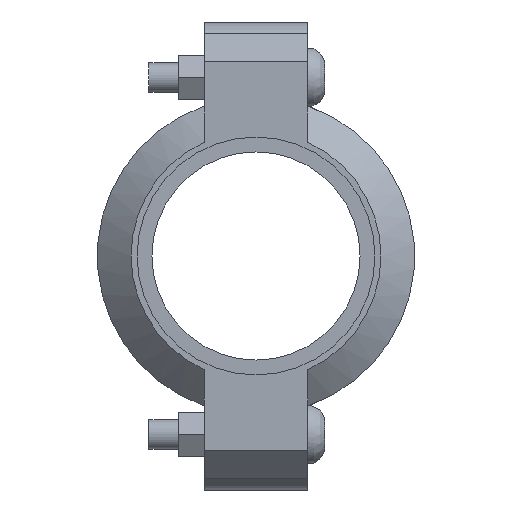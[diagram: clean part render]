
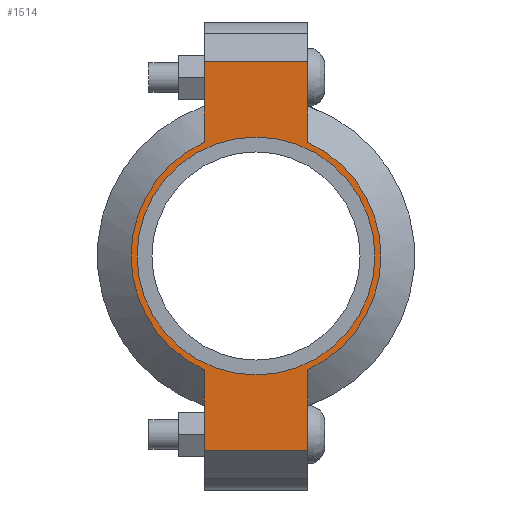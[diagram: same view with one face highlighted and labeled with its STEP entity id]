
A CAD part, left-side view. The second image highlights one B-rep face of the part: STEP entity #1514.
In plain terms, the highlighted planar face has unit normal (-1, 0, 0) as drawn and (0, 0, 1) by its records, which use the part's own axes.
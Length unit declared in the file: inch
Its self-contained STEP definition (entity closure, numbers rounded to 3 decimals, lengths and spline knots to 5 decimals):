
#176=LINE('',#2641,#269);
#189=LINE('',#2685,#282);
#194=LINE('',#2709,#287);
#201=LINE('',#2727,#294);
#208=LINE('',#2752,#301);
#209=LINE('',#2755,#302);
#269=VECTOR('',#2109,0.3937);
#282=VECTOR('',#2138,0.3937);
#287=VECTOR('',#2149,0.3937);
#294=VECTOR('',#2166,0.3937);
#301=VECTOR('',#2187,0.3937);
#302=VECTOR('',#2192,0.3937);
#350=FACE_BOUND('',#510,.T.);
#415=FACE_OUTER_BOUND('',#509,.T.);
#509=EDGE_LOOP('',(#1263,#1264,#1265,#1266,#1267,#1268,#1269,#1270));
#510=EDGE_LOOP('',(#1271));
#606=CIRCLE('',#1777,1.575);
#607=CIRCLE('',#1778,1.575);
#608=CIRCLE('',#1779,1.5);
#709=VERTEX_POINT('',#2636);
#710=VERTEX_POINT('',#2640);
#726=VERTEX_POINT('',#2682);
#727=VERTEX_POINT('',#2684);
#733=VERTEX_POINT('',#2704);
#734=VERTEX_POINT('',#2708);
#739=VERTEX_POINT('',#2724);
#740=VERTEX_POINT('',#2726);
#746=VERTEX_POINT('',#2757);
#876=EDGE_CURVE('',#710,#709,#176,.T.);
#896=EDGE_CURVE('',#727,#726,#189,.T.);
#905=EDGE_CURVE('',#734,#733,#194,.T.);
#914=EDGE_CURVE('',#740,#739,#201,.T.);
#926=EDGE_CURVE('',#734,#726,#208,.T.);
#927=EDGE_CURVE('',#733,#740,#606,.T.);
#928=EDGE_CURVE('',#710,#739,#209,.T.);
#929=EDGE_CURVE('',#709,#727,#607,.T.);
#930=EDGE_CURVE('',#746,#746,#608,.T.);
#1263=ORIENTED_EDGE('',*,*,#926,.F.);
#1264=ORIENTED_EDGE('',*,*,#905,.T.);
#1265=ORIENTED_EDGE('',*,*,#927,.T.);
#1266=ORIENTED_EDGE('',*,*,#914,.T.);
#1267=ORIENTED_EDGE('',*,*,#928,.F.);
#1268=ORIENTED_EDGE('',*,*,#876,.T.);
#1269=ORIENTED_EDGE('',*,*,#929,.T.);
#1270=ORIENTED_EDGE('',*,*,#896,.T.);
#1271=ORIENTED_EDGE('',*,*,#930,.T.);
#1367=PLANE('',#1776);
#1514=ADVANCED_FACE('',(#415,#350),#1367,.T.);
#1776=AXIS2_PLACEMENT_3D('',#2753,#2188,#2189);
#1777=AXIS2_PLACEMENT_3D('',#2754,#2190,#2191);
#1778=AXIS2_PLACEMENT_3D('',#2756,#2193,#2194);
#1779=AXIS2_PLACEMENT_3D('',#2758,#2195,#2196);
#2109=DIRECTION('',(1.,0.,0.));
#2138=DIRECTION('',(1.,0.,0.));
#2149=DIRECTION('',(-1.,0.,0.));
#2166=DIRECTION('',(-1.,0.,0.));
#2187=DIRECTION('',(0.,-1.,0.));
#2188=DIRECTION('center_axis',(0.,0.,1.));
#2189=DIRECTION('ref_axis',(-1.,0.,0.));
#2190=DIRECTION('center_axis',(0.,0.,1.));
#2191=DIRECTION('ref_axis',(1.,0.,0.));
#2192=DIRECTION('',(0.,1.,0.));
#2193=DIRECTION('center_axis',(0.,0.,1.));
#2194=DIRECTION('ref_axis',(1.,0.,0.));
#2195=DIRECTION('center_axis',(0.,0.,-1.));
#2196=DIRECTION('ref_axis',(1.,0.,0.));
#2636=CARTESIAN_POINT('',(-1.43462,-0.65,0.94));
#2640=CARTESIAN_POINT('',(-2.45,-0.65,0.94));
#2641=CARTESIAN_POINT('',(2.95,-0.65,0.94));
#2682=CARTESIAN_POINT('',(2.45,-0.65,0.94));
#2684=CARTESIAN_POINT('',(1.43462,-0.65,0.94));
#2685=CARTESIAN_POINT('',(2.95,-0.65,0.94));
#2704=CARTESIAN_POINT('',(1.43462,0.65,0.94));
#2708=CARTESIAN_POINT('',(2.45,0.65,0.94));
#2709=CARTESIAN_POINT('',(-2.95,0.65,0.94));
#2724=CARTESIAN_POINT('',(-2.45,0.65,0.94));
#2726=CARTESIAN_POINT('',(-1.43462,0.65,0.94));
#2727=CARTESIAN_POINT('',(-2.95,0.65,0.94));
#2752=CARTESIAN_POINT('',(2.45,-0.325,0.94));
#2753=CARTESIAN_POINT('Origin',(0.,0.,
0.94));
#2754=CARTESIAN_POINT('Origin',(0.,0.,0.94));
#2755=CARTESIAN_POINT('',(-2.45,0.325,0.94));
#2756=CARTESIAN_POINT('Origin',(0.,0.,0.94));
#2757=CARTESIAN_POINT('',(-1.5,0.,0.94));
#2758=CARTESIAN_POINT('Origin',(0.,0.,0.94));
